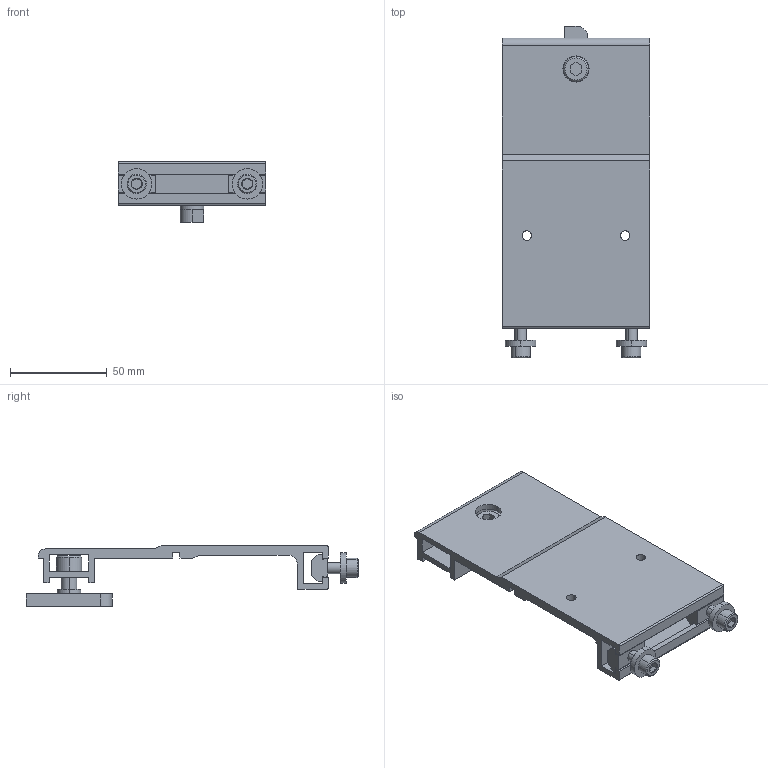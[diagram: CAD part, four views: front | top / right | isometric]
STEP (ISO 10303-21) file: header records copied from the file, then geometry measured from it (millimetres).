
FILE_DESCRIPTION((''),'2;1');
FILE_NAME('350702_ASM','2023-03-03T',('jenni.wallner'),(''),'PRO/ENGINEER BY PARAMETRIC TECHNOLOGY CORPORATION, 2012420','PRO/ENGINEER BY PARAMETRIC TECHNOLOGY CORPORATION, 2012420','');
FILE_SCHEMA(('CONFIG_CONTROL_DESIGN'));
Length unit declared in the file: inch
Products named in the file (8): 350534_CAE; X920816M; 605279P; 639971M_CAE; 9206XXM_920616M; 350533_CAE; ASM0001_ASM; 350702_ASM
Assembly tree (10 placements, depth 3):
  350702_ASM
    ASM0001_ASM
      350534_CAE
      X920816M
      605279P  x2
      639971M_CAE  x2
      9206XXM_920616M  x2
      350533_CAE
Bounding box: 76.2 x 171.46 x 31.17 mm (x, y, z)
Volume: 80601.6 mm3; surface area: 45453.6 mm2
Topology: 9 solids, 9 shells, 195 faces, 485 edges, 314 vertices
Faces by surface type: plane 106, cylinder 63, cone 26
Entity records: 4479 total; most frequent: CARTESIAN_POINT 800, DIRECTION 776, ORIENTED_EDGE 696, EDGE_CURVE 348, AXIS2_PLACEMENT_3D 271, VECTOR 234, LINE 234, VERTEX_POINT 226
